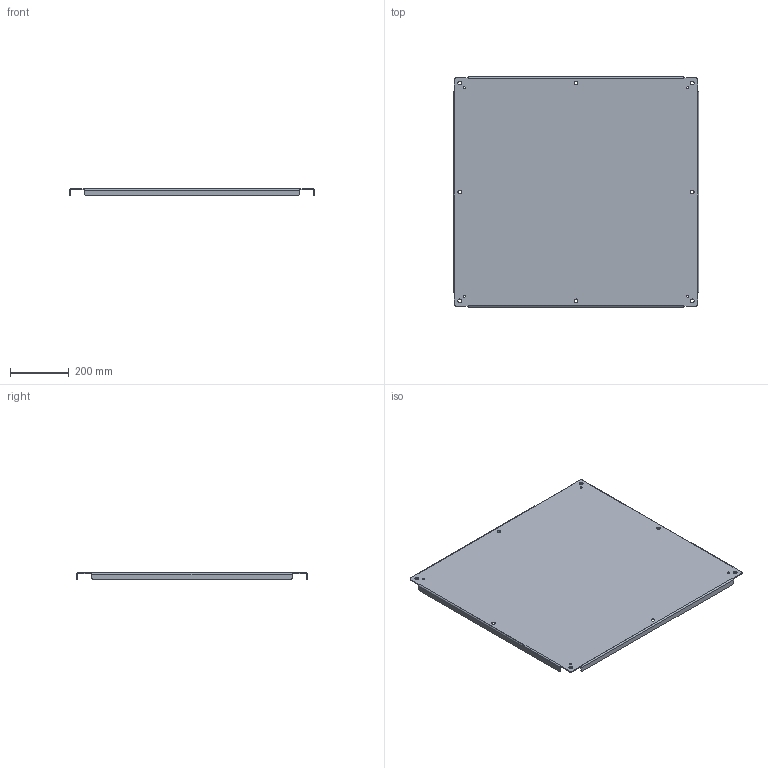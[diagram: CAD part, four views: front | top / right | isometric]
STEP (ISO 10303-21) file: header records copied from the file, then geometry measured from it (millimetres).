
FILE_DESCRIPTION((''),'2;1');
FILE_NAME('MODEL-092_ASM','2014-12-12T',('mikek'),('SAGINAW CONTROL & ENGINEERING'),'PRO/ENGINEER BY PARAMETRIC TECHNOLOGY CORPORATION, 2012070','PRO/ENGINEER BY PARAMETRIC TECHNOLOGY CORPORATION, 2012070','');
FILE_SCHEMA(('AUTOMOTIVE_DESIGN { 1 0 10303 214 1 1 1 1 }'));
Length unit declared in the file: inch
Products named in the file (2): MODEL-092-SUBPNL; MODEL-092_ASM
Assembly tree (1 placements, depth 2):
  MODEL-092_ASM
    MODEL-092-SUBPNL
Bounding box: 836.61 x 785.81 x 22.23 mm (x, y, z)
Volume: 2238686.3 mm3; surface area: 1422143.4 mm2
Topology: 1 solids, 1 shells, 106 faces, 280 edges, 176 vertices
Faces by surface type: cylinder 44, plane 38, bspline 24
Entity records: 4839 total; most frequent: CARTESIAN_POINT 1233, ORIENTED_EDGE 560, DIRECTION 538, PRESENTATION_STYLE_ASSIGNMENT 281, STYLED_ITEM 281, CURVE_STYLE 280, EDGE_CURVE 280, AXIS2_PLACEMENT_3D 189
